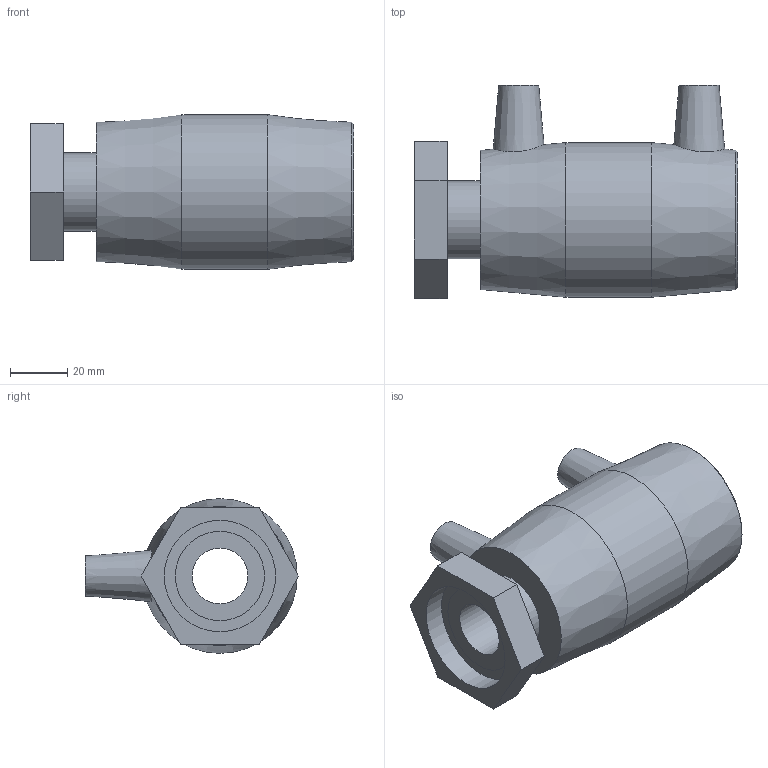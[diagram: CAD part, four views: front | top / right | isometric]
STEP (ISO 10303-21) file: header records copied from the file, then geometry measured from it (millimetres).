
FILE_DESCRIPTION(/* description */ ('PLASSON FEMALE FREE NUT TRANSITION COUPLER 40-1¼"'),/* implementation_level */ '2;1');
FILE_NAME(/* name */ '494104040013.stp',/* time_stamp */ '2026-05-12T11:34:32+03:00',/* author */ ('KIM'),/* organization */ (''),/* preprocessor_version */ 'ST-DEVELOPER v20.1',/* originating_system */ 'Autodesk Inventor 2026',/* authorisation */ '');
FILE_SCHEMA (('AUTOMOTIVE_DESIGN { 1 0 10303 214 3 1 1 }'));
Length unit declared in the file: millimetre
Products named in the file (1): 494104040013
Bounding box: 113 x 74.48 x 54 mm (x, y, z)
Volume: 111401.6 mm3; surface area: 39464.2 mm2
Topology: 1 solids, 1 shells, 36 faces, 66 edges, 44 vertices
Faces by surface type: plane 20, cylinder 11, cone 5
Full cylindrical faces by diameter (mm): 4 x2, 10 x2, 19.476 x1, 27.266 x1, 31.162 x1, 38 x1, 38.952 x1, 40 x1, 54 x1
Entity records: 1005 total; most frequent: CARTESIAN_POINT 215, DIRECTION 164, ORIENTED_EDGE 132, EDGE_CURVE 66, AXIS2_PLACEMENT_3D 65, EDGE_LOOP 50, VERTEX_POINT 44, FACE_OUTER_BOUND 36
